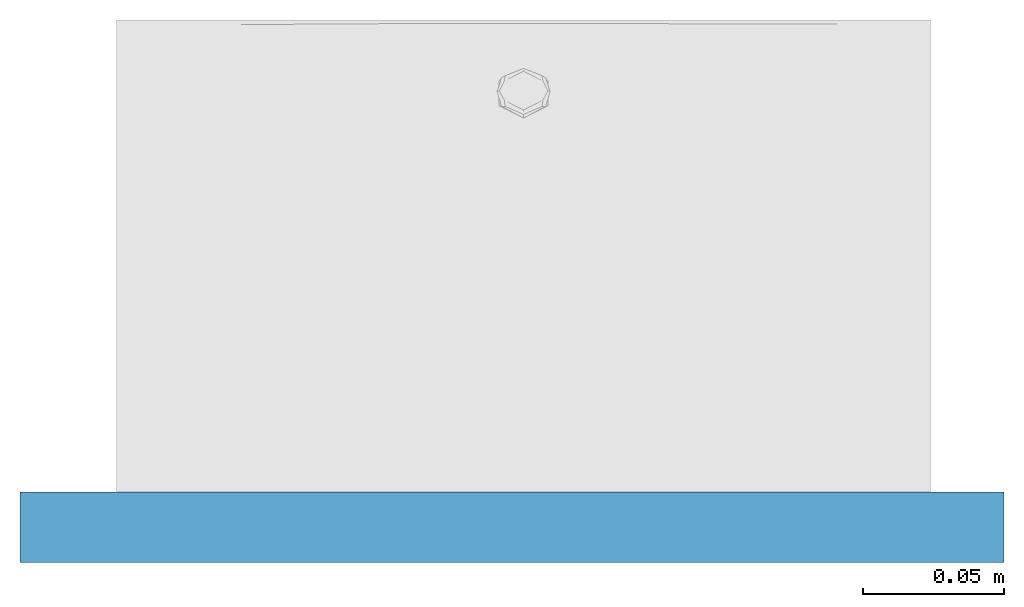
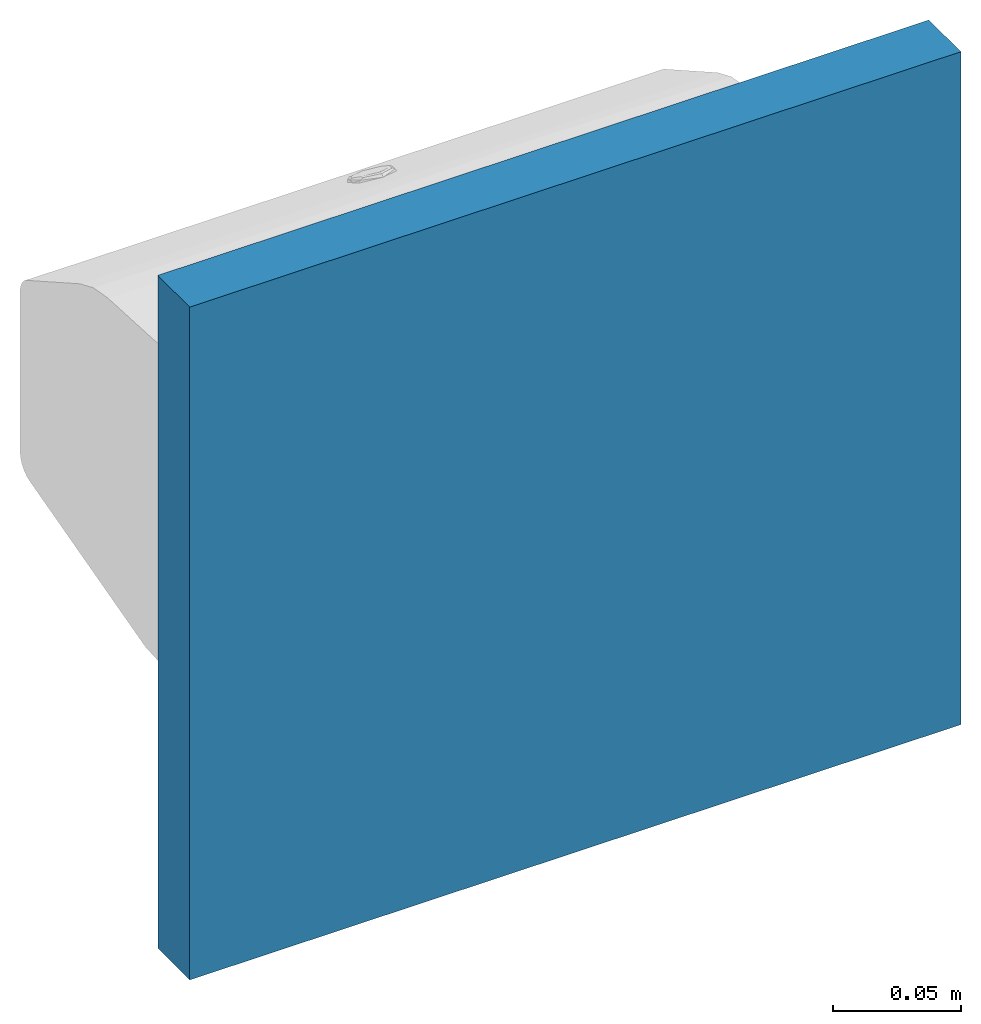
# One storey, part 1 of 2: 1 wall.
"""IFC2X3 building model written with IfcOpenShell, lengths in millimetres."""

from ifc_helpers import new_model, entity, si_unit, converted_unit, derived_unit, direction, frame, frame_2d, origin, place, context, subcontext, project, spatial, rectangle, extrude, material, layer, layer_set, layer_usage, type_object, element, save


model = new_model("IFC2X3")

# Units and contexts
model_context = context("Model", 3, precision=1e-05, world=origin(), true_north=direction((2.0, 6.12303176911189e-17, 1.0)))
context_of_model = context(None, 3, precision=1e-05, world=origin(), true_north=direction((2.0, 6.12303176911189e-17, 1.0)))
body_context = subcontext(model_context, "Body", "Model", "MODEL_VIEW")
ifc_project = project(units=[si_unit("LENGTHUNIT", "METRE", prefix="MILLI"), si_unit("AREAUNIT", "SQUARE_METRE"), si_unit("VOLUMEUNIT", "CUBIC_METRE"), converted_unit("PLANEANGLEUNIT", "DEGREE", entity("IfcRatioMeasure", 0.0174532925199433), si_unit("PLANEANGLEUNIT", "RADIAN"), dimensions=[0, 0, 0, 0, 0, 0, 0]), si_unit("MASSUNIT", "GRAM", prefix="KILO"), si_unit("TIMEUNIT", "SECOND"), si_unit("THERMODYNAMICTEMPERATUREUNIT", "KELVIN"), derived_unit("THERMALTRANSMITTANCEUNIT", [(si_unit("MASSUNIT", "GRAM", prefix="KILO"), 1), (si_unit("THERMODYNAMICTEMPERATUREUNIT", "KELVIN"), -1), (si_unit("TIMEUNIT", "SECOND"), -3)]), derived_unit("VOLUMETRICFLOWRATEUNIT", [(si_unit("LENGTHUNIT", "METRE"), 3), (si_unit("TIMEUNIT", "SECOND"), -1)]), si_unit("POWERUNIT", "WATT")], contexts=[model_context, context_of_model])

# Site, building, storey
site_placement = place(None, origin())
site = spatial("IfcSite", under=ifc_project, at=site_placement, Name="Default", CompositionType="ELEMENT")
building_placement = place(site_placement, origin())
building = spatial("IfcBuilding", under=site, at=building_placement, CompositionType="ELEMENT")
storey_placement = place(building_placement, origin())
storey = spatial("IfcBuildingStorey", under=building, at=storey_placement, Name="Level 1", CompositionType="ELEMENT", Elevation=0.0)

# Wall
ifc_material = material(Name="Default Wall")
ifc_layer = layer(ifc_material, 25.0)
ifc_layer_set = layer_set([ifc_layer], Name="Basic Wall:Wall 1")
ifc_layer_usage = layer_usage(ifc_layer_set, "AXIS2", "NEGATIVE", 12.5)
wall_type = type_object("IfcWallType", Name="Basic Wall:Wall 1", PredefinedType="STANDARD", material=ifc_layer_set)
wall_placement = place(storey_placement, frame((1038.81266577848, 3965.19853342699, -22.7478216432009)))
element("IfcWallStandardCase", 1, at=wall_placement, inside=storey, type_object=wall_type, material=ifc_layer_usage, Name="Basic Wall:Wall 1:3092", ObjectType="Basic Wall:Wall 1:1494", context=body_context, shape_type="SweptSolid", body=[
    extrude(rectangle(XDim=348.214311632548, YDim=24.9999999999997, at=frame_2d((174.107155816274, 0.0), x_axis=(-1.0, 0.0))), origin(), (0.0, 0.0, 1.0), 321.229747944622),
])

save(model, "model.ifc")
